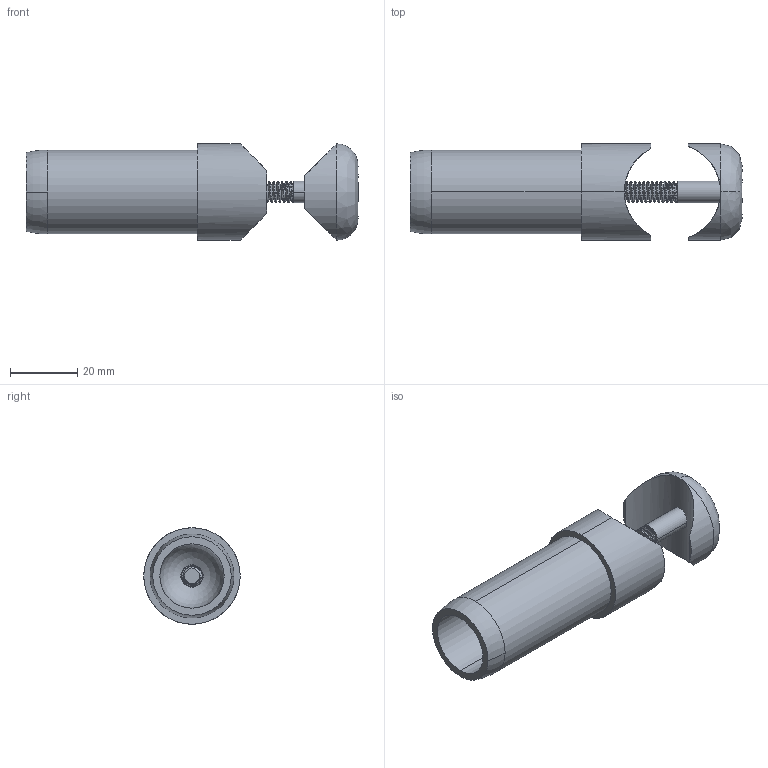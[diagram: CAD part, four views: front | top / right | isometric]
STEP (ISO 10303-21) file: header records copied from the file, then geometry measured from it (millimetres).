
FILE_DESCRIPTION (( 'STEP AP203' ), '1' );
FILE_NAME ('FDPCK-MC1-TEE.step', '2019-09-11T18:43:51', ( 'ydmin' ), ( '' ), 'SwSTEP 2.0', 'SolidWorks 2017', '' );
FILE_SCHEMA (( 'CONFIG_CONTROL_DESIGN' ));
Length unit declared in the file: inch
Products named in the file (1): FDPCK-MC1-TEE
Bounding box: 98.42 x 28.57 x 28.57 mm (x, y, z)
Volume: 25792.3 mm3; surface area: 13435.3 mm2
Topology: 3 solids, 3 shells, 137 faces, 362 edges, 233 vertices
Faces by surface type: cylinder 98, plane 17, cone 13, bspline 6, torus 2, sphere 1
Entity records: 7738 total; most frequent: CARTESIAN_POINT 4781, ORIENTED_EDGE 722, DIRECTION 498, EDGE_CURVE 361, VERTEX_POINT 233, AXIS2_PLACEMENT_3D 191, EDGE_LOOP 144, ADVANCED_FACE 137
